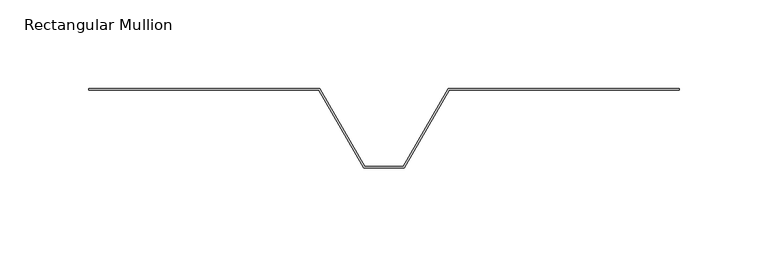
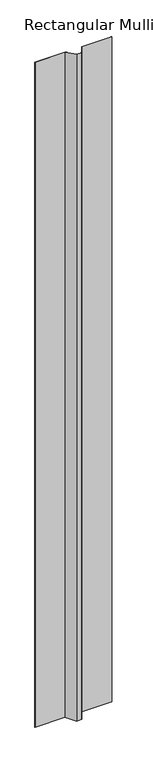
"""IFC4 building model written with IfcOpenShell, lengths in millimetres: member geometry, Rectangular Mullion : Parisienne 1000 - Metal - AZURO 0102."""

from ifc_helpers import new_model, si_unit, origin, place, context, project, spatial, faceted_brep, source, transform, mapped, element, save


def rectangular_mullion_85015836(model_context):
    return source(origin(), model_context, "Body", "Brep", [
        faceted_brep([(11.5, -45.0, -3046.2798357), (-11.5, -45.0, -3046.2798357), (-36.9222222, -1.0, -3046.2798357), (-166.5, -1.0, -3046.2798357), (-166.5, 0.0, -3046.2798357), (-37.5, 0.0, -3046.2798357), (-36.3450856, 0.0, -3046.2798357), (-10.9228634, -44.0, -3046.2798357), (10.9228634, -44.0, -3046.2798357), (36.3450856, 0.0, -3046.2798357), (37.5, 0.0, -3046.2798357), (166.5, 0.0, -3046.2798357), (166.5, -1.0, -3046.2798357), (36.9222222, -1.0, -3046.2798357), (36.9222222, -1.0, 0.176327), (11.5, -45.0, 7.9347141), (166.5, -1.0, 0.176327), (166.5, 0.0, 0.0), (37.5, 0.0, 0.0), (36.3450856, 0.0, 0.0), (10.9228634, -44.0, 7.7583872), (-10.9228634, -44.0, 7.7583872), (-36.3450856, 0.0, 0.0), (-37.5, 0.0, 0.0), (-166.5, 0.0, 0.0), (-166.5, -1.0, 0.176327), (-36.9222222, -1.0, 0.176327), (-11.5, -45.0, 7.9347141)], [[[0, 1, 2, 3, 4, 5, 6, 7, 8, 9, 10, 11, 12, 13]], [[14, 15, 0, 13]], [[16, 14, 13, 12]], [[17, 16, 12, 11]], [[18, 17, 11, 10]], [[19, 18, 10, 9]], [[20, 19, 9, 8]], [[21, 20, 8, 7]], [[22, 21, 7, 6]], [[23, 22, 6, 5]], [[24, 23, 5, 4]], [[25, 24, 4, 3]], [[26, 25, 3, 2]], [[27, 26, 2, 1]], [[15, 27, 1, 0]], [[15, 14, 16, 17, 18, 19, 20, 21, 22, 23, 24, 25, 26, 27]]]),
    ])


if __name__ == "__main__":
    model = new_model("IFC4")
    model_context = context("Model", 3, world=origin())
    ifc_project = project(units=[si_unit("LENGTHUNIT", "METRE", prefix="MILLI")], contexts=[model_context])
    site = spatial("IfcSite", under=ifc_project)
    building = spatial("IfcBuilding", under=site)
    placement = place(None, origin())
    rectangular_mullion_shape = rectangular_mullion_85015836(model_context)
    element("IfcMember", 1, ObjectType="Rectangular Mullion : Parisienne 1000 - Metal - AZURO 0102", at=placement, inside=building, context=model_context, shape_type="MappedRepresentation", body=[
        mapped(rectangular_mullion_shape, transform((0.0, 0.0, 0.0), x_axis=(1.0, 0.0, 0.0), y_axis=(0.0, 1.0, 0.0), z_axis=(0.0, 0.0, 1.0))),
    ])
    save(model, "model.ifc")
